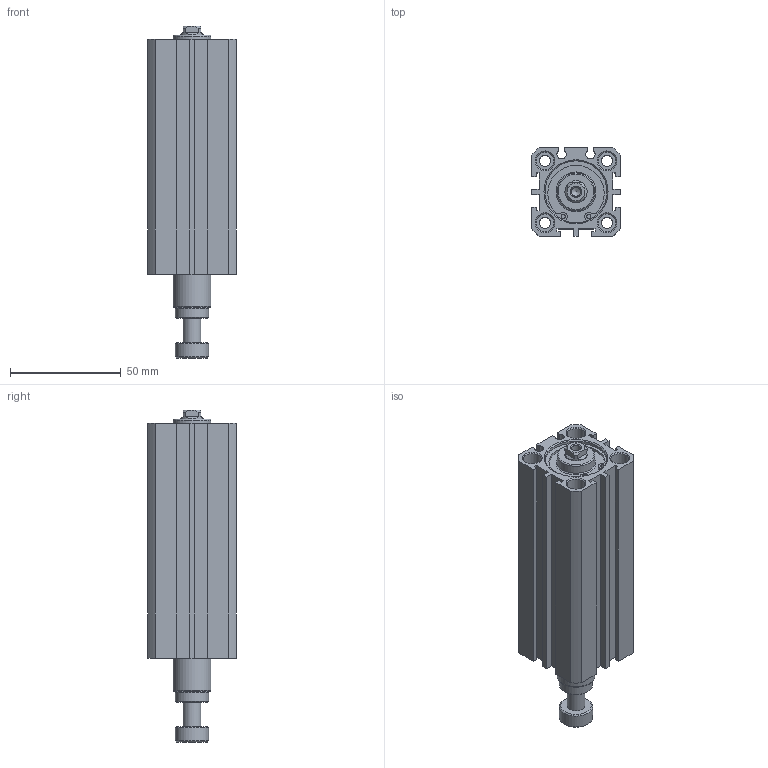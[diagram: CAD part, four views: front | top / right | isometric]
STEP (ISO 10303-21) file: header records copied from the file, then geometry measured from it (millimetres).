
FILE_DESCRIPTION((''),'2;1');
FILE_NAME('I:\3D電子目錄\氣缸\JDAR\JDAR-S\JDAR25-S\JDAR25x75-S.stp','2007-05-05T08:54:03',('662F206'),(''),'Autodesk Inventor 11','Autodesk Inventor 11','');
FILE_SCHEMA(('AUTOMOTIVE_DESIGN { 1 0 10303 214 1 1 1 1 }'));
Length unit declared in the file: millimetre
Products named in the file (3): JDAR25-S; JDAR25; R 形環 28
Assembly tree (3 placements, depth 2):
  JDAR25-S
    JDAR25
    R 形環 28  x2
Bounding box: 40 x 40 x 150.1 mm (x, y, z)
Volume: 144441.4 mm3; surface area: 38849 mm2
Topology: 3 solids, 3 shells, 165 faces, 384 edges, 249 vertices
Faces by surface type: plane 86, cylinder 48, cone 21, bspline 8, torus 2
Full cylindrical faces by diameter (mm): 1.5 x2, 1.9 x4, 5.1 x4, 8 x9, 10 x1, 15 x2, 17 x2, 28 x4, 29.4 x2
Entity records: 4249 total; most frequent: CARTESIAN_POINT 853, DIRECTION 706, ORIENTED_EDGE 588, EDGE_CURVE 294, AXIS2_PLACEMENT_3D 269, EDGE_LOOP 242, VERTEX_POINT 222, VECTOR 168
